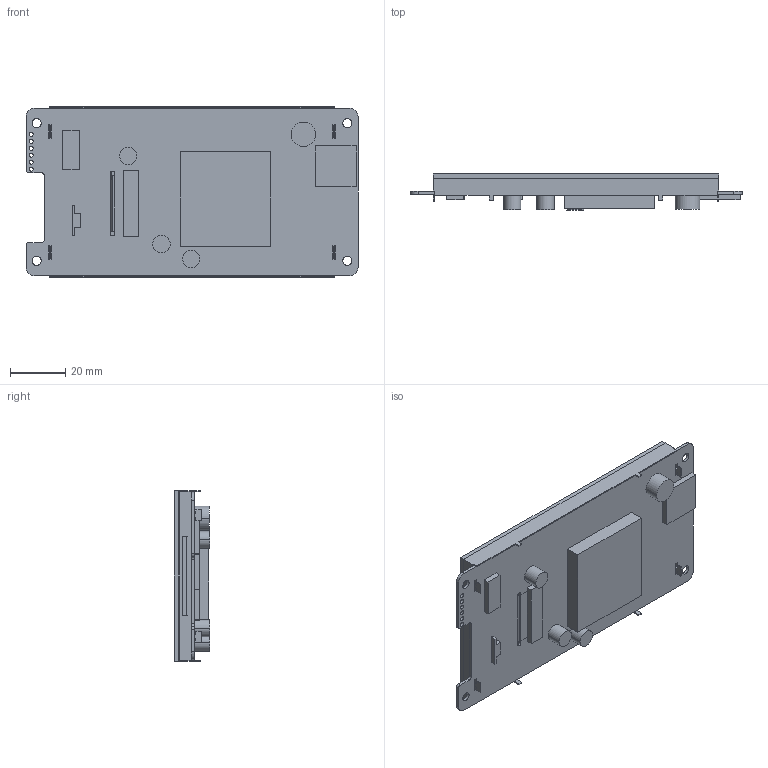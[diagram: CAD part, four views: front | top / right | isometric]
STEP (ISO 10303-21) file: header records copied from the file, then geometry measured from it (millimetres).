
FILE_DESCRIPTION((''),'2;1');
FILE_NAME('DMG80480C043-02W_ASM','2023-02-15T',('Administrator'),(''),'PRO/ENGINEER BY PARAMETRIC TECHNOLOGY CORPORATION, 2014320','PRO/ENGINEER BY PARAMETRIC TECHNOLOGY CORPORATION, 2014320','');
FILE_SCHEMA(('CONFIG_CONTROL_DESIGN','SHAPE_APPEARANCE_LAYERS_GROUPS'));
Length unit declared in the file: millimetre
Products named in the file (5): TK; 043IPS; PCB; RTP; DMG80480C043-02W_ASM
Assembly tree (4 placements, depth 2):
  DMG80480C043-02W_ASM
    TK
    043IPS
    PCB
    RTP
Bounding box: 120.67 x 13 x 61.96 mm (x, y, z)
Volume: 41780.8 mm3; surface area: 50571.4 mm2
Topology: 4 solids, 4 shells, 224 faces, 604 edges, 402 vertices
Faces by surface type: plane 176, cylinder 48
Entity records: 8172 total; most frequent: CARTESIAN_POINT 1266, ORIENTED_EDGE 1208, DIRECTION 1158, EDGE_CURVE 604, VECTOR 504, LINE 504, VERTEX_POINT 402, AXIS2_PLACEMENT_3D 327
